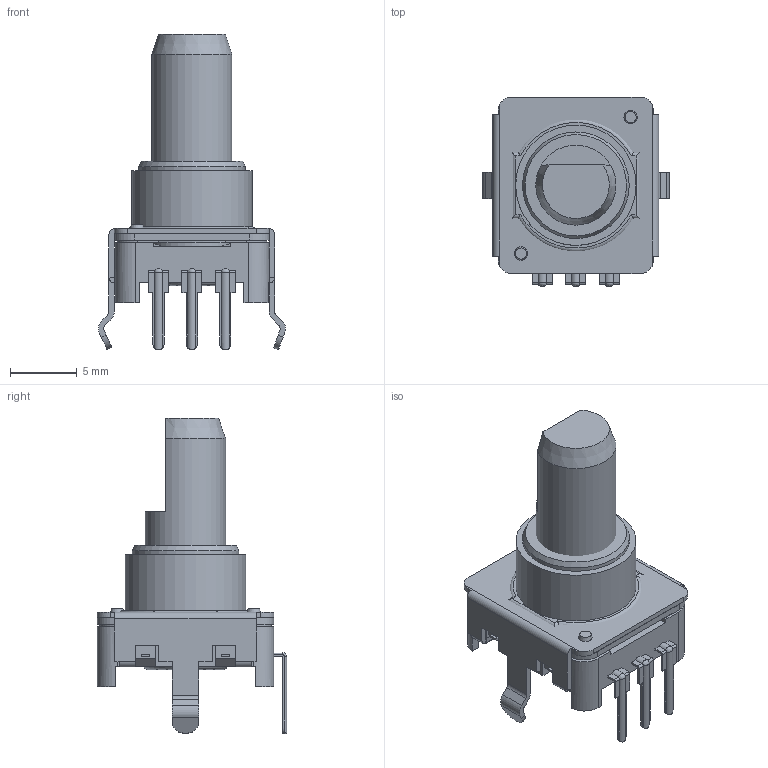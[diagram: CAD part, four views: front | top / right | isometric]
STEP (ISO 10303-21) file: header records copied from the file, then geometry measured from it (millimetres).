
FILE_DESCRIPTION(/* description */ (''),/* implementation_level */ '2;1');
FILE_NAME(/* name */ '\\Forward-ks-ad\開發專區\\X2\9AD896C45EE08A2D8A088AB2\X0\\設計機種開發作業\\X2\91CF75226A5F7A2E5C086848\X0\\ENCODER\機種開發\Encoder\DC12K\3D\CTS\DC12G1220404.stp',/* time_stamp */ '2020-06-15T11:23:58+08:00',/* author */ ('jia'),/* organization */ (''),/* preprocessor_version */ 'ST-DEVELOPER v15.2',/* originating_system */ 'Autodesk Inventor 2014',/* authorisation */ '');
FILE_SCHEMA (('AUTOMOTIVE_DESIGN { 1 0 10303 214 3 1 1 }'));
Length unit declared in the file: millimetre
Products named in the file (1): DC12K2420311_Shrinkwrap_1
Bounding box: 13.99 x 14.18 x 23.6 mm (x, y, z)
Surface area: 2058.7 mm2 (no closed solid volume)
Topology: 0 solids, 22 shells, 306 faces, 924 edges, 622 vertices
Faces by surface type: plane 222, cylinder 71, bspline 6, cone 4, torus 3
Full cylindrical faces by diameter (mm): 6 x1, 6.1 x1, 7.98 x1, 9 x1
Entity records: 10744 total; most frequent: CARTESIAN_POINT 2215, DIRECTION 1666, ORIENTED_EDGE 1601, EDGE_CURVE 909, LINE 702, VECTOR 702, VERTEX_POINT 621, AXIS2_PLACEMENT_3D 482
